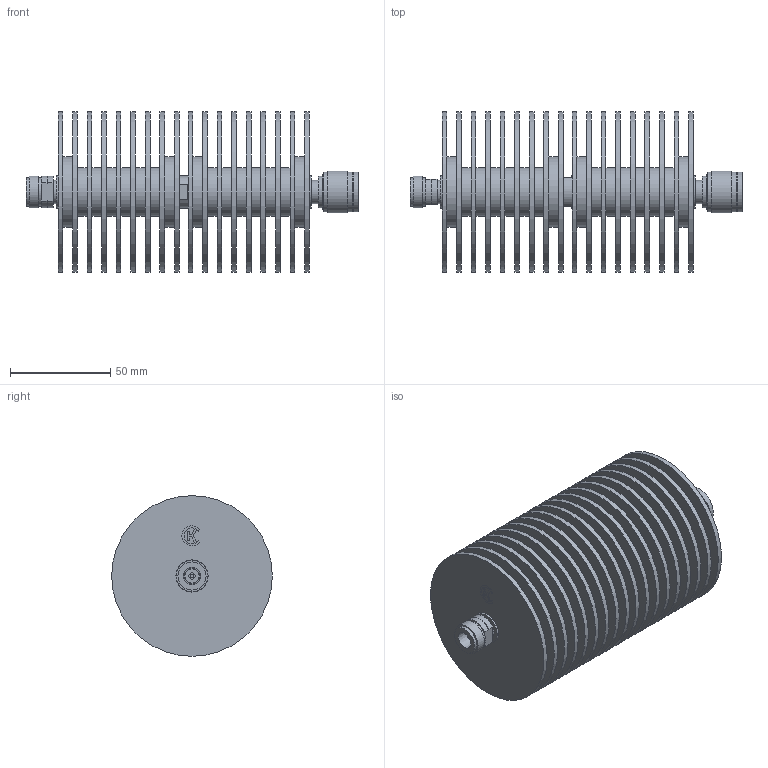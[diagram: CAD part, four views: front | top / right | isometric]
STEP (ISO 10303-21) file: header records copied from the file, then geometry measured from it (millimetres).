
FILE_DESCRIPTION(('STEP AP203'), '1');
FILE_NAME('ÏÐ1-25-100-NMF', '', ('UNSPECIFIED'), ('UNSPECIFIED'), 'C3D Converter', 'C3D Toolkit', '');
FILE_SCHEMA(('CONFIG_CONTROL_DESIGN'));
Length unit declared in the file: millimetre
Products named in the file (5): -01
Assembly tree (5 placements, depth 2):
  (unnamed)
    (unnamed)
    (unnamed)  x2
    -01
    (unnamed)
Bounding box: 165.4 x 80 x 80 mm (x, y, z)
Volume: 261448 mm3; surface area: 187738.3 mm2
Topology: 5 solids, 5 shells, 230 faces, 460 edges, 307 vertices
Faces by surface type: plane 140, cylinder 85, torus 3, cone 2
Full cylindrical faces by diameter (mm): 1.65 x1, 1.66 x1, 3.04 x2, 7 x2, 8.04 x1, 8.06 x1, 9 x1, 11.6 x2, 12.7 x1, 14 x2, 14.94 x1, 15.75 x1, 15.87 x1, 16 x7, 16.5 x1, 17.46 x1, 17.8 x1, 19.8 x3, 20.85 x1, 24 x12, 35 x4, 80 x18
Entity records: 5484 total; most frequent: CARTESIAN_POINT 873, DIRECTION 700, ORIENTED_EDGE 500, AXIS2_PLACEMENT_3D 295, EDGE_CURVE 250, EDGE_LOOP 248, VERTEX_POINT 200, FACE_BOUND 161
